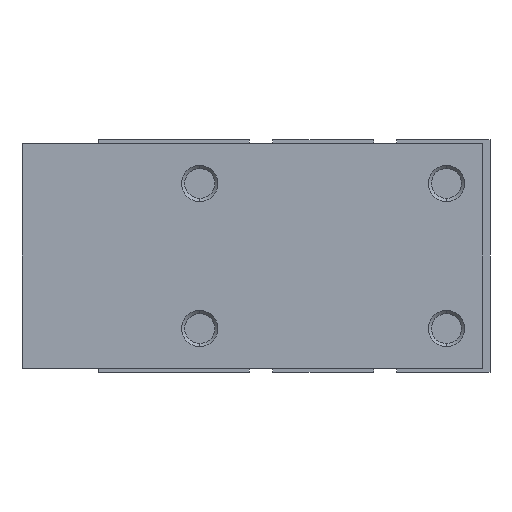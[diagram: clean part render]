
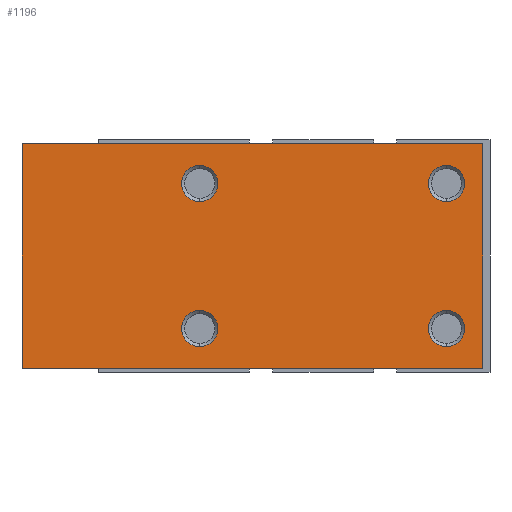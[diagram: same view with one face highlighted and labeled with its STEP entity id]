
A CAD part, left-side view. The second image highlights one B-rep face of the part: STEP entity #1196.
In plain terms, the highlighted planar face has unit normal (-1, 0, 0).
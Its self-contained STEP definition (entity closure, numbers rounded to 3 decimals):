
#29 = DIRECTION ( 'NONE',  ( 0., 0., -1. ) ) ;
#53 = VECTOR ( 'NONE', #2599, 1000. ) ;
#58 = FACE_OUTER_BOUND ( 'NONE', #4908, .T. ) ;
#320 = DIRECTION ( 'NONE',  ( 0., 0., 1. ) ) ;
#332 = AXIS2_PLACEMENT_3D ( 'NONE', #361, #2700, #5919 ) ;
#342 = EDGE_CURVE ( 'NONE', #2980, #3277, #5869, .T. ) ;
#361 = CARTESIAN_POINT ( 'NONE',  ( -15.5, 17., -10. ) ) ;
#371 = DIRECTION ( 'NONE',  ( -1., 0., 0. ) ) ;
#425 = CARTESIAN_POINT ( 'NONE',  ( -15.5, 41.5, 15.5 ) ) ;
#435 = AXIS2_PLACEMENT_3D ( 'NONE', #1421, #3721, #1449 ) ;
#486 = FACE_BOUND ( 'NONE', #1096, .T. ) ;
#626 = LINE ( 'NONE', #2473, #1438 ) ;
#629 = DIRECTION ( 'NONE',  ( 0., 0., 1. ) ) ;
#640 = ORIENTED_EDGE ( 'NONE', *, *, #1901, .F. ) ;
#681 = CARTESIAN_POINT ( 'NONE',  ( -15.5, 41.5, -15.5 ) ) ;
#785 = EDGE_CURVE ( 'NONE', #1814, #1587, #1968, .T. ) ;
#886 = DIRECTION ( 'NONE',  ( 0., 0., 1. ) ) ;
#896 = ORIENTED_EDGE ( 'NONE', *, *, #2277, .F. ) ;
#991 = DIRECTION ( 'NONE',  ( -1., 0., 0. ) ) ;
#997 = FACE_BOUND ( 'NONE', #4145, .T. ) ;
#1004 = DIRECTION ( 'NONE',  ( -1., 0., 0. ) ) ;
#1013 = AXIS2_PLACEMENT_3D ( 'NONE', #5926, #371, #1305 ) ;
#1094 = VECTOR ( 'NONE', #5410, 1000. ) ;
#1096 = EDGE_LOOP ( 'NONE', ( #896, #5077 ) ) ;
#1104 = EDGE_CURVE ( 'NONE', #3630, #3793, #5116, .T. ) ;
#1167 = DIRECTION ( 'NONE',  ( 0., -1., 0. ) ) ;
#1196 = ADVANCED_FACE ( 'NONE', ( #58, #1904, #486, #997, #1779 ), #5579, .F. ) ;
#1258 = LINE ( 'NONE', #681, #53 ) ;
#1305 = DIRECTION ( 'NONE',  ( 0., 0., 1. ) ) ;
#1327 = CARTESIAN_POINT ( 'NONE',  ( -15.5, -17., 10. ) ) ;
#1421 = CARTESIAN_POINT ( 'NONE',  ( -15.5, 41.5, 15.5 ) ) ;
#1438 = VECTOR ( 'NONE', #1167, 1000. ) ;
#1449 = DIRECTION ( 'NONE',  ( 0., 1., 0. ) ) ;
#1485 = CIRCLE ( 'NONE', #1013, 2.5 ) ;
#1490 = AXIS2_PLACEMENT_3D ( 'NONE', #3931, #991, #2848 ) ;
#1492 = VERTEX_POINT ( 'NONE', #3094 ) ;
#1499 = EDGE_CURVE ( 'NONE', #5476, #1889, #4815, .T. ) ;
#1513 = EDGE_CURVE ( 'NONE', #1492, #3277, #1258, .T. ) ;
#1587 = VERTEX_POINT ( 'NONE', #4664 ) ;
#1624 = CARTESIAN_POINT ( 'NONE',  ( -15.5, 17., -10. ) ) ;
#1680 = DIRECTION ( 'NONE',  ( -1., 0., 0. ) ) ;
#1774 = EDGE_CURVE ( 'NONE', #1587, #1814, #2269, .T. ) ;
#1779 = FACE_BOUND ( 'NONE', #5966, .T. ) ;
#1814 = VERTEX_POINT ( 'NONE', #2029 ) ;
#1889 = VERTEX_POINT ( 'NONE', #3139 ) ;
#1890 = CARTESIAN_POINT ( 'NONE',  ( -15.5, 17., -12.5 ) ) ;
#1901 = EDGE_CURVE ( 'NONE', #1889, #5476, #1485, .T. ) ;
#1904 = FACE_BOUND ( 'NONE', #5418, .T. ) ;
#1968 = CIRCLE ( 'NONE', #5885, 2.5 ) ;
#1986 = ORIENTED_EDGE ( 'NONE', *, *, #342, .F. ) ;
#2029 = CARTESIAN_POINT ( 'NONE',  ( -15.5, 17., 12.5 ) ) ;
#2225 = CARTESIAN_POINT ( 'NONE',  ( -15.5, -22., 15.5 ) ) ;
#2240 = CIRCLE ( 'NONE', #3613, 2.5 ) ;
#2269 = CIRCLE ( 'NONE', #1490, 2.5 ) ;
#2277 = EDGE_CURVE ( 'NONE', #5248, #3251, #2440, .T. ) ;
#2440 = CIRCLE ( 'NONE', #5874, 2.5 ) ;
#2473 = CARTESIAN_POINT ( 'NONE',  ( -15.5, 41.5, 15.5 ) ) ;
#2572 = VECTOR ( 'NONE', #29, 1000. ) ;
#2599 = DIRECTION ( 'NONE',  ( 0., -1., 0. ) ) ;
#2700 = DIRECTION ( 'NONE',  ( -1., 0., 0. ) ) ;
#2822 = EDGE_CURVE ( 'NONE', #4958, #1492, #5068, .T. ) ;
#2848 = DIRECTION ( 'NONE',  ( 0., 0., 1. ) ) ;
#2941 = DIRECTION ( 'NONE',  ( -1., 0., 0. ) ) ;
#2980 = VERTEX_POINT ( 'NONE', #4043 ) ;
#3094 = CARTESIAN_POINT ( 'NONE',  ( -15.5, 41.5, -15.5 ) ) ;
#3100 = ORIENTED_EDGE ( 'NONE', *, *, #1499, .F. ) ;
#3133 = CARTESIAN_POINT ( 'NONE',  ( -15.5, 17., -7.5 ) ) ;
#3139 = CARTESIAN_POINT ( 'NONE',  ( -15.5, -17., -7.5 ) ) ;
#3145 = CARTESIAN_POINT ( 'NONE',  ( -15.5, -17., -12.5 ) ) ;
#3251 = VERTEX_POINT ( 'NONE', #5972 ) ;
#3274 = ORIENTED_EDGE ( 'NONE', *, *, #785, .F. ) ;
#3277 = VERTEX_POINT ( 'NONE', #5546 ) ;
#3561 = DIRECTION ( 'NONE',  ( 0., 0., 1. ) ) ;
#3585 = CARTESIAN_POINT ( 'NONE',  ( -15.5, 41.5, 15.5 ) ) ;
#3593 = ORIENTED_EDGE ( 'NONE', *, *, #4403, .F. ) ;
#3613 = AXIS2_PLACEMENT_3D ( 'NONE', #1624, #2941, #629 ) ;
#3615 = ORIENTED_EDGE ( 'NONE', *, *, #5672, .F. ) ;
#3630 = VERTEX_POINT ( 'NONE', #1890 ) ;
#3721 = DIRECTION ( 'NONE',  ( 1., 0., 0. ) ) ;
#3793 = VERTEX_POINT ( 'NONE', #3133 ) ;
#3931 = CARTESIAN_POINT ( 'NONE',  ( -15.5, 17., 10. ) ) ;
#4010 = CARTESIAN_POINT ( 'NONE',  ( -15.5, -17., -10. ) ) ;
#4043 = CARTESIAN_POINT ( 'NONE',  ( -15.5, -22., 15.5 ) ) ;
#4049 = DIRECTION ( 'NONE',  ( -1., 0., 0. ) ) ;
#4145 = EDGE_LOOP ( 'NONE', ( #640, #3100 ) ) ;
#4282 = ORIENTED_EDGE ( 'NONE', *, *, #2822, .T. ) ;
#4308 = CARTESIAN_POINT ( 'NONE',  ( -15.5, -17., 12.5 ) ) ;
#4403 = EDGE_CURVE ( 'NONE', #4958, #2980, #626, .T. ) ;
#4489 = DIRECTION ( 'NONE',  ( -1., 0., 0. ) ) ;
#4534 = ORIENTED_EDGE ( 'NONE', *, *, #1513, .T. ) ;
#4664 = CARTESIAN_POINT ( 'NONE',  ( -15.5, 17., 7.5 ) ) ;
#4752 = ORIENTED_EDGE ( 'NONE', *, *, #1104, .F. ) ;
#4815 = CIRCLE ( 'NONE', #5402, 2.5 ) ;
#4908 = EDGE_LOOP ( 'NONE', ( #4534, #1986, #3593, #4282 ) ) ;
#4914 = CARTESIAN_POINT ( 'NONE',  ( -15.5, -17., 10. ) ) ;
#4958 = VERTEX_POINT ( 'NONE', #3585 ) ;
#5007 = ORIENTED_EDGE ( 'NONE', *, *, #1774, .F. ) ;
#5068 = LINE ( 'NONE', #425, #2572 ) ;
#5077 = ORIENTED_EDGE ( 'NONE', *, *, #5860, .F. ) ;
#5116 = CIRCLE ( 'NONE', #332, 2.5 ) ;
#5248 = VERTEX_POINT ( 'NONE', #4308 ) ;
#5402 = AXIS2_PLACEMENT_3D ( 'NONE', #4010, #1680, #320 ) ;
#5410 = DIRECTION ( 'NONE',  ( 0., 0., -1. ) ) ;
#5418 = EDGE_LOOP ( 'NONE', ( #3615, #4752 ) ) ;
#5470 = CIRCLE ( 'NONE', #5752, 2.5 ) ;
#5476 = VERTEX_POINT ( 'NONE', #3145 ) ;
#5546 = CARTESIAN_POINT ( 'NONE',  ( -15.5, -22., -15.5 ) ) ;
#5579 = PLANE ( 'NONE',  #435 ) ;
#5619 = CARTESIAN_POINT ( 'NONE',  ( -15.5, 17., 10. ) ) ;
#5672 = EDGE_CURVE ( 'NONE', #3793, #3630, #2240, .T. ) ;
#5752 = AXIS2_PLACEMENT_3D ( 'NONE', #1327, #4049, #3561 ) ;
#5860 = EDGE_CURVE ( 'NONE', #3251, #5248, #5470, .T. ) ;
#5869 = LINE ( 'NONE', #2225, #1094 ) ;
#5874 = AXIS2_PLACEMENT_3D ( 'NONE', #4914, #4489, #5958 ) ;
#5885 = AXIS2_PLACEMENT_3D ( 'NONE', #5619, #1004, #886 ) ;
#5919 = DIRECTION ( 'NONE',  ( 0., 0., 1. ) ) ;
#5926 = CARTESIAN_POINT ( 'NONE',  ( -15.5, -17., -10. ) ) ;
#5958 = DIRECTION ( 'NONE',  ( 0., 0., 1. ) ) ;
#5966 = EDGE_LOOP ( 'NONE', ( #3274, #5007 ) ) ;
#5972 = CARTESIAN_POINT ( 'NONE',  ( -15.5, -17., 7.5 ) ) ;
